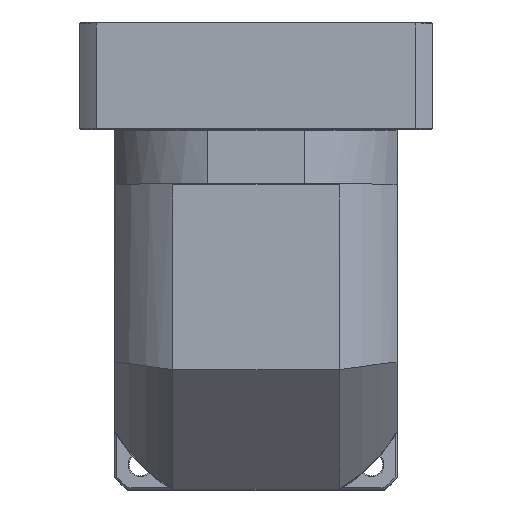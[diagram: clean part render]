
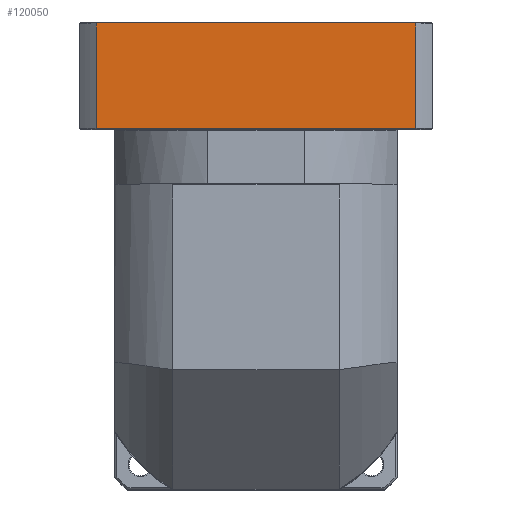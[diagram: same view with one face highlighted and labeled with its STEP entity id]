
A CAD part, top view. The second image highlights one B-rep face of the part: STEP entity #120050.
In plain terms, the highlighted planar face has unit normal (0, 0, 1).
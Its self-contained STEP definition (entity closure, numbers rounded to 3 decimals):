
#2009 = EDGE_CURVE ( 'NONE', #52225, #130178, #103681, .T. ) ;
#6785 = VECTOR ( 'NONE', #37745, 1000. ) ;
#8914 = DIRECTION ( 'NONE',  ( 0., 0., -1. ) ) ;
#9793 = PLANE ( 'NONE',  #65585 ) ;
#12024 = EDGE_LOOP ( 'NONE', ( #80028, #79284, #133585, #92874 ) ) ;
#19298 = DIRECTION ( 'NONE',  ( 0., -1., 0. ) ) ;
#24040 = CARTESIAN_POINT ( 'NONE',  ( 3.887, 175.351, 63.011 ) ) ;
#27510 = VECTOR ( 'NONE', #59348, 1000. ) ;
#28263 = CARTESIAN_POINT ( 'NONE',  ( -165.605, 228.351, 63.011 ) ) ;
#30139 = EDGE_CURVE ( 'NONE', #52225, #124669, #47401, .T. ) ;
#37395 = FACE_OUTER_BOUND ( 'NONE', #12024, .T. ) ;
#37745 = DIRECTION ( 'NONE',  ( 0., 1., 0. ) ) ;
#47401 = LINE ( 'NONE', #24040, #129777 ) ;
#52225 = VERTEX_POINT ( 'NONE', #74408 ) ;
#58118 = CARTESIAN_POINT ( 'NONE',  ( -165.605, 228.851, 63.011 ) ) ;
#59348 = DIRECTION ( 'NONE',  ( 0., -1., 0. ) ) ;
#64434 = CARTESIAN_POINT ( 'NONE',  ( -4.62, 175.351, 63.011 ) ) ;
#65585 = AXIS2_PLACEMENT_3D ( 'NONE', #122283, #8914, #19298 ) ;
#72007 = VECTOR ( 'NONE', #79011, 1000. ) ;
#74408 = CARTESIAN_POINT ( 'NONE',  ( -165.605, 175.351, 63.011 ) ) ;
#76780 = LINE ( 'NONE', #87563, #72007 ) ;
#79011 = DIRECTION ( 'NONE',  ( 1., 0., 0. ) ) ;
#79284 = ORIENTED_EDGE ( 'NONE', *, *, #30139, .T. ) ;
#80028 = ORIENTED_EDGE ( 'NONE', *, *, #2009, .F. ) ;
#80985 = VERTEX_POINT ( 'NONE', #106686 ) ;
#85486 = DIRECTION ( 'NONE',  ( 1., 0., 0. ) ) ;
#87563 = CARTESIAN_POINT ( 'NONE',  ( 3.887, 228.351, 63.011 ) ) ;
#90459 = CARTESIAN_POINT ( 'NONE',  ( -4.62, -167.955, 63.011 ) ) ;
#92874 = ORIENTED_EDGE ( 'NONE', *, *, #127760, .F. ) ;
#98418 = EDGE_CURVE ( 'NONE', #80985, #124669, #103452, .T. ) ;
#103452 = LINE ( 'NONE', #90459, #27510 ) ;
#103681 = LINE ( 'NONE', #58118, #6785 ) ;
#106686 = CARTESIAN_POINT ( 'NONE',  ( -4.62, 228.351, 63.011 ) ) ;
#120050 = ADVANCED_FACE ( 'NONE', ( #37395 ), #9793, .F. ) ;
#122283 = CARTESIAN_POINT ( 'NONE',  ( 3.887, 228.851, 63.011 ) ) ;
#124669 = VERTEX_POINT ( 'NONE', #64434 ) ;
#127760 = EDGE_CURVE ( 'NONE', #130178, #80985, #76780, .T. ) ;
#129777 = VECTOR ( 'NONE', #85486, 1000. ) ;
#130178 = VERTEX_POINT ( 'NONE', #28263 ) ;
#133585 = ORIENTED_EDGE ( 'NONE', *, *, #98418, .F. ) ;
